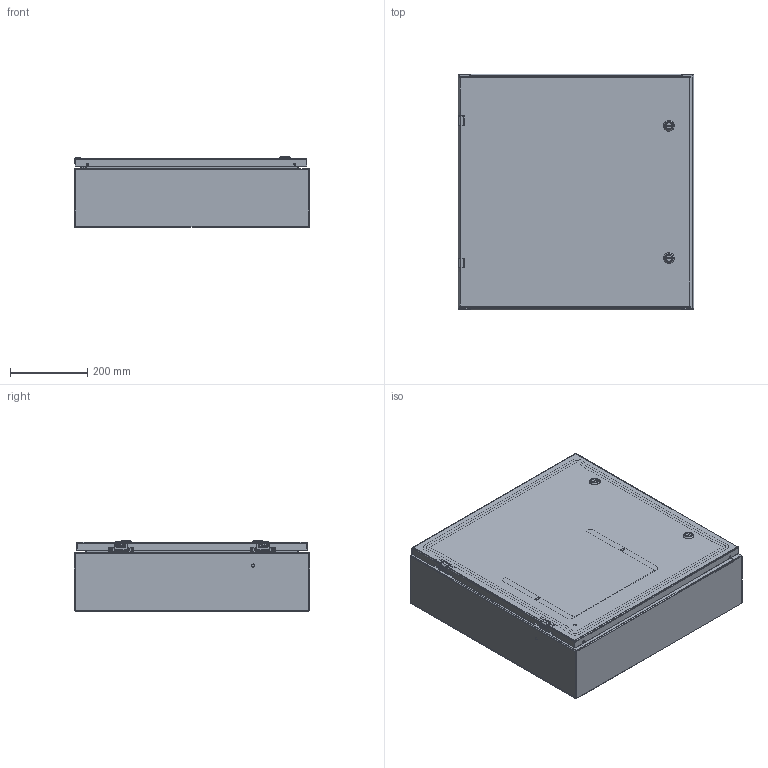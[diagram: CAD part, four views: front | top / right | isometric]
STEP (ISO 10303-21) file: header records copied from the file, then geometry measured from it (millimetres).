
FILE_DESCRIPTION((''),'2;1');
FILE_NAME('MODEL-305_ASM','2022-12-14T06:09:02',('johnh'),('SAGINAW CONTROL & ENGINEERING'),'CREO PARAMETRIC BY PTC INC, 2021284','CREO PARAMETRIC BY PTC INC, 2021284','');
FILE_SCHEMA(('AUTOMOTIVE_DESIGN { 1 0 10303 214 1 1 1 1 }'));
Length unit declared in the file: inch
Products named in the file (28): MODEL-305-BDY; MODEL-305-TP; MODEL-305-BTM; MODEL-305-DR; 100837; 100882; 111267; 100794_SHAFT; 100794_INSERT; 100794_CAM; 100794_NUT; 100794_SCREW; 100794_ASM; MODEL-305-DOOR-GASKET; 126391; 126391_ASM; 126393; 102483; 101226; 101376; 102140; MODEL-305-DOOR-ASSY_ASM; 101653; 122191; SUBPANEL; 100904; SUBPANEL-SUBASSEMBLY_ASM; MODEL-305_ASM
Assembly tree (48 placements, depth 4):
  MODEL-305_ASM
    MODEL-305-BDY
    MODEL-305-TP
    MODEL-305-BTM
    MODEL-305-DOOR-ASSY_ASM
      MODEL-305-DR
      100837  x3
      100882  x2
      111267
      100794_ASM  x2
        100794_SHAFT
        100794_INSERT
        100794_CAM
        100794_NUT
        100794_SCREW
      MODEL-305-DOOR-GASKET
      126391_ASM  x2
        126391
      126393  x2
      102483  x6
      101226  x2
      101376  x2
      102140  x2
    100837
    101653  x4
    122191
    SUBPANEL-SUBASSEMBLY_ASM
      SUBPANEL
      100904  x4
Bounding box: 609.6 x 609.6 x 183.53 mm (x, y, z)
Volume: 3849828.7 mm3; surface area: 3476922.1 mm2
Topology: 49 solids, 49 shells, 3061 faces, 7782 edges, 4888 vertices
Faces by surface type: plane 1358, cylinder 853, bspline 476, torus 214, cone 104, sphere 56
Entity records: 86174 total; most frequent: CARTESIAN_POINT 25365, ORIENTED_EDGE 8826, DIRECTION 8230, PRESENTATION_STYLE_ASSIGNMENT 4610, EDGE_CURVE 4413, STYLED_ITEM 4335, CURVE_STYLE 4251, AXIS2_PLACEMENT_3D 2984
